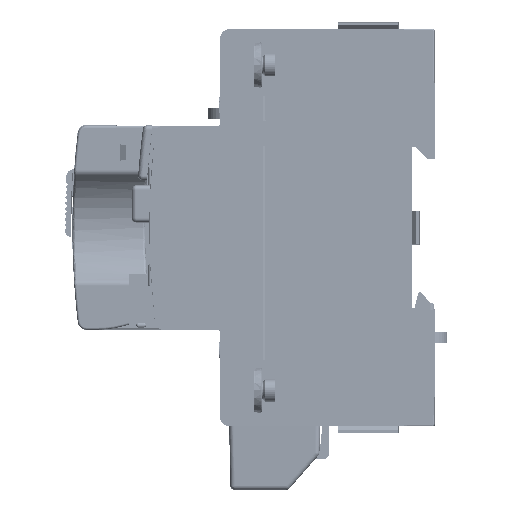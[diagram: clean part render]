
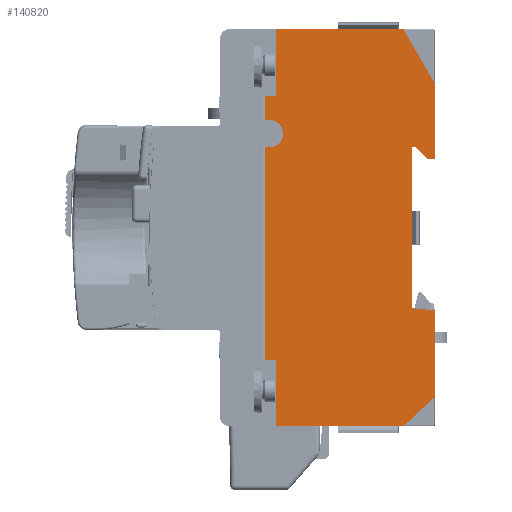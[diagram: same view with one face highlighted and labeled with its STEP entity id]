
A CAD part, front view. The second image highlights one B-rep face of the part: STEP entity #140820.
In plain terms, the highlighted planar face has unit normal (0, -1, 0).
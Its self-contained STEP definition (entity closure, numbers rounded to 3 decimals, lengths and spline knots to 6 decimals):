
#15802=DIRECTION('',(0.,0.,1.));
#15803=VECTOR('',#15802,0.0146);
#15804=CARTESIAN_POINT('',(0.0034,-0.0723,-0.04375));
#15805=LINE('',#15804,#15803);
#15830=CARTESIAN_POINT('',(0.0019,-0.0723,0.02075));
#15831=DIRECTION('',(0.,1.,0.));
#15832=DIRECTION('',(0.,0.,1.));
#15833=AXIS2_PLACEMENT_3D('',#15830,#15831,#15832);
#15838=DIRECTION('',(-0.5,0.,0.866));
#15839=VECTOR('',#15838,0.014);
#15840=CARTESIAN_POINT('',(0.0384,-0.0723,0.031626));
#15841=LINE('',#15840,#15839);
#15845=DIRECTION('',(0.707,0.,-0.707));
#15846=VECTOR('',#15845,0.003536);
#15847=CARTESIAN_POINT('',(0.0341,-0.0723,0.01775));
#15848=LINE('',#15847,#15846);
#15852=DIRECTION('',(0.,0.,1.));
#15853=VECTOR('',#15852,0.0355);
#15854=CARTESIAN_POINT('',(0.0334,-0.0723,-0.01775));
#15855=LINE('',#15854,#15853);
#15859=DIRECTION('',(-0.996,0.,0.087));
#15860=VECTOR('',#15859,0.005019);
#15861=CARTESIAN_POINT('',(0.0384,-0.0723,-0.018187));
#15862=LINE('',#15861,#15860);
#15866=DIRECTION('',(0.731,0.,0.682));
#15867=VECTOR('',#15866,0.009571);
#15868=CARTESIAN_POINT('',(0.0314,-0.0723,-0.04375));
#15869=LINE('',#15868,#15867);
#15873=DIRECTION('',(1.,0.,0.));
#15874=VECTOR('',#15873,0.028);
#15875=CARTESIAN_POINT('',(0.0034,-0.0723,-0.04375));
#15876=LINE('',#15875,#15874);
#15887=DIRECTION('',(0.,0.,1.));
#15888=VECTOR('',#15887,0.0469);
#15889=CARTESIAN_POINT('',(0.0009,-0.0723,-0.02915));
#15890=LINE('',#15889,#15888);
#15894=DIRECTION('',(1.,0.,0.));
#15895=VECTOR('',#15894,0.001);
#15896=CARTESIAN_POINT('',(0.0009,-0.0723,0.01775));
#15897=LINE('',#15896,#15895);
#20988=DIRECTION('',(0.,0.,-1.));
#20989=VECTOR('',#20988,0.016376);
#20990=CARTESIAN_POINT('',(0.0384,-0.0723,0.031626));
#20991=LINE('',#20990,#20989);
#21242=DIRECTION('',(1.,0.,0.));
#21243=VECTOR('',#21242,0.028);
#21244=CARTESIAN_POINT('',(0.0034,-0.0723,0.04375));
#21245=LINE('',#21244,#21243);
#21557=DIRECTION('',(0.,0.,1.));
#21558=VECTOR('',#21557,0.0146);
#21559=CARTESIAN_POINT('',(0.0034,-0.0723,0.02915));
#21560=LINE('',#21559,#21558);
#24128=DIRECTION('',(-1.,0.,0.));
#24129=VECTOR('',#24128,0.0025);
#24130=CARTESIAN_POINT('',(0.0034,-0.0723,-0.02915));
#24131=LINE('',#24130,#24129);
#88830=DIRECTION('',(0.,0.,-1.));
#88831=VECTOR('',#88830,0.019035);
#88832=CARTESIAN_POINT('',(0.0384,-0.0723,-0.018187));
#88833=LINE('',#88832,#88831);
#91751=DIRECTION('',(-1.,0.,0.));
#91752=VECTOR('',#91751,0.0007);
#91753=CARTESIAN_POINT('',(0.0341,-0.0723,0.01775));
#91754=LINE('',#91753,#91752);
#91814=DIRECTION('',(-1.,0.,0.));
#91815=VECTOR('',#91814,0.0018);
#91816=CARTESIAN_POINT('',(0.0384,-0.0723,0.01525));
#91817=LINE('',#91816,#91815);
#108839=DIRECTION('',(1.,0.,0.));
#108840=VECTOR('',#108839,0.0025);
#108841=CARTESIAN_POINT('',(0.0009,-0.0723,0.02915));
#108842=LINE('',#108841,#108840);
#108875=DIRECTION('',(0.,0.,1.));
#108876=VECTOR('',#108875,0.0054);
#108877=CARTESIAN_POINT('',(0.0009,-0.0723,0.02375));
#108878=LINE('',#108877,#108876);
#108889=DIRECTION('',(-1.,0.,0.));
#108890=VECTOR('',#108889,0.001);
#108891=CARTESIAN_POINT('',(0.0019,-0.0723,0.02375));
#108892=LINE('',#108891,#108890);
#121988=CARTESIAN_POINT('',(0.0034,-0.0723,-0.04375));
#121989=VERTEX_POINT('',#121988);
#121990=CARTESIAN_POINT('',(0.0314,-0.0723,-0.04375));
#121991=VERTEX_POINT('',#121990);
#122066=CARTESIAN_POINT('',(0.0334,-0.0723,-0.01775));
#122067=CARTESIAN_POINT('',(0.0334,-0.0723,0.01775));
#122068=VERTEX_POINT('',#122066);
#122069=VERTEX_POINT('',#122067);
#122106=CARTESIAN_POINT('',(0.0009,-0.0723,0.01775));
#122107=CARTESIAN_POINT('',(0.0019,-0.0723,0.01775));
#122108=VERTEX_POINT('',#122106);
#122109=VERTEX_POINT('',#122107);
#122110=CARTESIAN_POINT('',(0.0019,-0.0723,0.02375));
#122111=VERTEX_POINT('',#122110);
#122112=CARTESIAN_POINT('',(0.0009,-0.0723,0.02375));
#122113=VERTEX_POINT('',#122112);
#122114=CARTESIAN_POINT('',(0.0009,-0.0723,0.02915));
#122115=VERTEX_POINT('',#122114);
#122116=CARTESIAN_POINT('',(0.0034,-0.0723,0.02915));
#122117=VERTEX_POINT('',#122116);
#122118=CARTESIAN_POINT('',(0.0034,-0.0723,0.04375));
#122119=VERTEX_POINT('',#122118);
#122120=CARTESIAN_POINT('',(0.0314,-0.0723,0.04375));
#122121=VERTEX_POINT('',#122120);
#122122=CARTESIAN_POINT('',(0.0384,-0.0723,0.031626));
#122123=VERTEX_POINT('',#122122);
#122124=CARTESIAN_POINT('',(0.0384,-0.0723,0.01525));
#122125=VERTEX_POINT('',#122124);
#122126=CARTESIAN_POINT('',(0.0366,-0.0723,0.01525));
#122127=VERTEX_POINT('',#122126);
#122128=CARTESIAN_POINT('',(0.0341,-0.0723,0.01775));
#122129=VERTEX_POINT('',#122128);
#122130=CARTESIAN_POINT('',(0.0384,-0.0723,-0.018187));
#122131=VERTEX_POINT('',#122130);
#122132=CARTESIAN_POINT('',(0.0384,-0.0723,-0.037222));
#122133=VERTEX_POINT('',#122132);
#122134=CARTESIAN_POINT('',(0.0034,-0.0723,-0.02915));
#122135=VERTEX_POINT('',#122134);
#122136=CARTESIAN_POINT('',(0.0009,-0.0723,-0.02915));
#122137=VERTEX_POINT('',#122136);
#140775=CARTESIAN_POINT('',(0.01965,-0.0723,0.));
#140776=DIRECTION('',(0.,-1.,0.));
#140777=DIRECTION('',(0.,0.,-1.));
#140778=AXIS2_PLACEMENT_3D('',#140775,#140776,#140777);
#140779=PLANE('',#140778);
#140781=ORIENTED_EDGE('',*,*,#140780,.T.);
#140783=ORIENTED_EDGE('',*,*,#140782,.T.);
#140785=ORIENTED_EDGE('',*,*,#140784,.F.);
#140787=ORIENTED_EDGE('',*,*,#140786,.T.);
#140789=ORIENTED_EDGE('',*,*,#140788,.T.);
#140791=ORIENTED_EDGE('',*,*,#140790,.T.);
#140793=ORIENTED_EDGE('',*,*,#140792,.T.);
#140795=ORIENTED_EDGE('',*,*,#140794,.T.);
#140797=ORIENTED_EDGE('',*,*,#140796,.F.);
#140799=ORIENTED_EDGE('',*,*,#140798,.T.);
#140801=ORIENTED_EDGE('',*,*,#140800,.T.);
#140803=ORIENTED_EDGE('',*,*,#140802,.F.);
#140805=ORIENTED_EDGE('',*,*,#140804,.T.);
#140807=ORIENTED_EDGE('',*,*,#140806,.F.);
#140809=ORIENTED_EDGE('',*,*,#140808,.F.);
#140811=ORIENTED_EDGE('',*,*,#140810,.T.);
#140813=ORIENTED_EDGE('',*,*,#140812,.F.);
#140814=ORIENTED_EDGE('',*,*,#131744,.F.);
#140815=ORIENTED_EDGE('',*,*,#140759,.T.);
#140817=ORIENTED_EDGE('',*,*,#140816,.T.);
#140818=EDGE_LOOP('',(#140781,#140783,#140785,#140787,#140789,#140791,#140793,
#140795,#140797,#140799,#140801,#140803,#140805,#140807,#140809,#140811,#140813,
#140814,#140815,#140817));
#140819=FACE_OUTER_BOUND('',#140818,.F.);
#15834=CIRCLE('',#15833,0.003);
#131744=EDGE_CURVE('',#121989,#121991,#15876,.T.);
#140759=EDGE_CURVE('',#121989,#122135,#15805,.T.);
#140780=EDGE_CURVE('',#122137,#122108,#15890,.T.);
#140782=EDGE_CURVE('',#122108,#122109,#15897,.T.);
#140784=EDGE_CURVE('',#122111,#122109,#15834,.T.);
#140786=EDGE_CURVE('',#122111,#122113,#108892,.T.);
#140788=EDGE_CURVE('',#122113,#122115,#108878,.T.);
#140790=EDGE_CURVE('',#122115,#122117,#108842,.T.);
#140792=EDGE_CURVE('',#122117,#122119,#21560,.T.);
#140794=EDGE_CURVE('',#122119,#122121,#21245,.T.);
#140796=EDGE_CURVE('',#122123,#122121,#15841,.T.);
#140798=EDGE_CURVE('',#122123,#122125,#20991,.T.);
#140800=EDGE_CURVE('',#122125,#122127,#91817,.T.);
#140802=EDGE_CURVE('',#122129,#122127,#15848,.T.);
#140804=EDGE_CURVE('',#122129,#122069,#91754,.T.);
#140806=EDGE_CURVE('',#122068,#122069,#15855,.T.);
#140808=EDGE_CURVE('',#122131,#122068,#15862,.T.);
#140810=EDGE_CURVE('',#122131,#122133,#88833,.T.);
#140812=EDGE_CURVE('',#121991,#122133,#15869,.T.);
#140816=EDGE_CURVE('',#122135,#122137,#24131,.T.);
#140820=ADVANCED_FACE('',(#140819),#140779,.T.);
